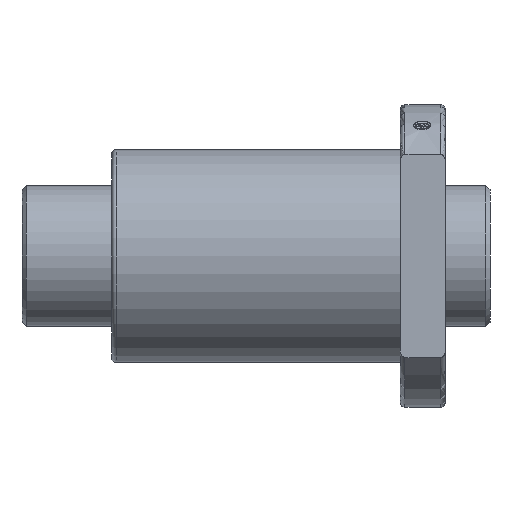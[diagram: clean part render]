
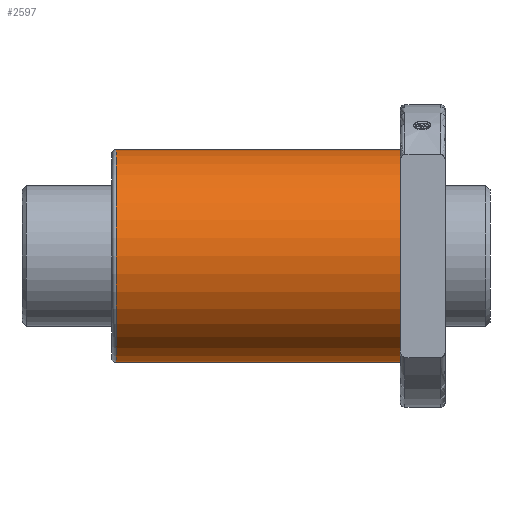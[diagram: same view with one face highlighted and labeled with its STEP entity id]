
A CAD part, front view. The second image highlights one B-rep face of the part: STEP entity #2597.
In plain terms, the highlighted cylindrical face has radius 47.5 mm (diameter 95 mm), a full revolution.
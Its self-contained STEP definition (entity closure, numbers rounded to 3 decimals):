
#293 = DIRECTION ( 'NONE',  ( 0., 0., -1. ) ) ;
#397 = CIRCLE ( 'NONE', #2087, 47.5 ) ;
#449 = EDGE_LOOP ( 'NONE', ( #1633 ) ) ;
#582 = VERTEX_POINT ( 'NONE', #1487 ) ;
#898 = DIRECTION ( 'NONE',  ( 1., 0., 0. ) ) ;
#1016 = AXIS2_PLACEMENT_3D ( 'NONE', #2135, #2316, #293 ) ;
#1092 = CARTESIAN_POINT ( 'NONE',  ( -40., 0., 0. ) ) ;
#1141 = EDGE_LOOP ( 'NONE', ( #2346 ) ) ;
#1171 = CARTESIAN_POINT ( 'NONE',  ( -167., 0., 0. ) ) ;
#1273 = VERTEX_POINT ( 'NONE', #1288 ) ;
#1288 = CARTESIAN_POINT ( 'NONE',  ( -40., 0., -47.5 ) ) ;
#1487 = CARTESIAN_POINT ( 'NONE',  ( -167., 0., -47.5 ) ) ;
#1633 = ORIENTED_EDGE ( 'NONE', *, *, #1965, .T. ) ;
#1801 = FACE_OUTER_BOUND ( 'NONE', #1141, .T. ) ;
#1818 = DIRECTION ( 'NONE',  ( 1., 0., 0. ) ) ;
#1965 = EDGE_CURVE ( 'NONE', #582, #582, #2951, .T. ) ;
#2087 = AXIS2_PLACEMENT_3D ( 'NONE', #1092, #1818, #2464 ) ;
#2135 = CARTESIAN_POINT ( 'NONE',  ( -189., 0., 0. ) ) ;
#2254 = FACE_OUTER_BOUND ( 'NONE', #449, .T. ) ;
#2316 = DIRECTION ( 'NONE',  ( 1., 0., 0. ) ) ;
#2331 = EDGE_CURVE ( 'NONE', #1273, #1273, #397, .T. ) ;
#2342 = CYLINDRICAL_SURFACE ( 'NONE', #1016, 47.5 ) ;
#2346 = ORIENTED_EDGE ( 'NONE', *, *, #2331, .F. ) ;
#2464 = DIRECTION ( 'NONE',  ( 0., 0., -1. ) ) ;
#2597 = ADVANCED_FACE ( 'NONE', ( #2254, #1801 ), #2342, .T. ) ;
#2608 = AXIS2_PLACEMENT_3D ( 'NONE', #1171, #898, #2733 ) ;
#2733 = DIRECTION ( 'NONE',  ( 0., 0., -1. ) ) ;
#2951 = CIRCLE ( 'NONE', #2608, 47.5 ) ;
